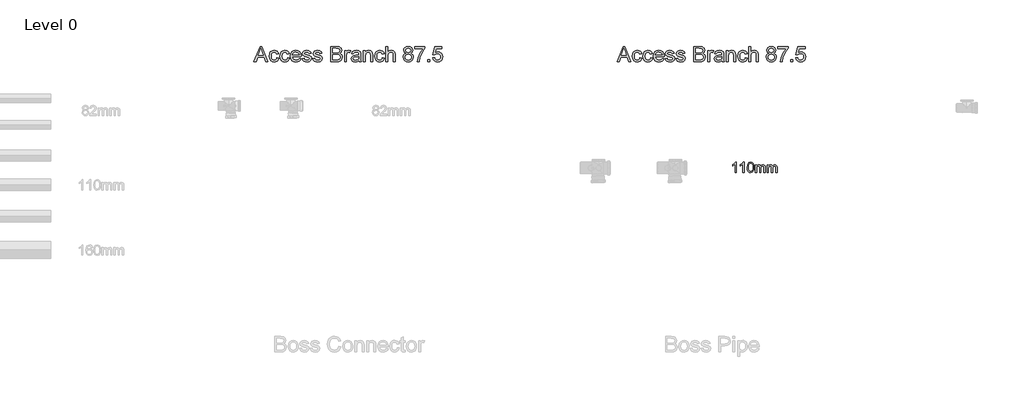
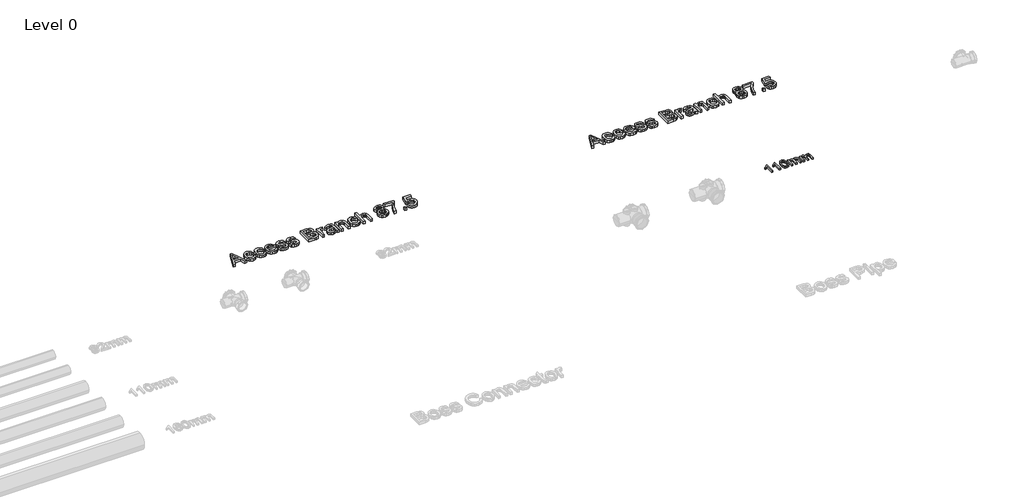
# One storey, part 10 of 23: 3 proxies.
"""IFC4 building model written with IfcOpenShell, lengths in millimetres."""

from ifc_helpers import new_model, si_unit, origin, origin_with_axes, place, context, project, spatial, polyline, outline, extrude, element, save

model = new_model("IFC4")

# Units and contexts
model_context = context("Model", 3, world=origin())
ifc_project = project(units=[si_unit("LENGTHUNIT", "METRE", prefix="MILLI")], contexts=[model_context])

# Site, building, storey
site = spatial("IfcSite", under=ifc_project)
building = spatial("IfcBuilding", under=site)
storey = spatial("IfcBuildingStorey", under=building, Name="Level 0", Elevation=0.0)

# Proxies
placement = place(None, origin())
element("IfcBuildingElementProxy", 1, Name="100mm Arial", ObjectType="100mm Arial", at=placement, inside=storey, context=model_context, shape_type="SweptSolid", body=[
    extrude(outline(polyline([(-17291.7293188, 8237.7167304), (-17304.0370111, 8237.7167304), (-17304.0370111, 8314.4474996), (-17315.6956649, 8306.1422111), (-17328.6523957, 8299.9282688), (-17328.6523957, 8311.5628842), (-17310.6115303, 8323.0773073), (-17299.6620111, 8336.1782688), (-17291.7293188, 8336.1782688), (-17291.7293188, 8237.7167304)])), origin_with_axes(), (0.0, 0.0, 1.0), 15.0),
    extrude(outline(polyline([(-17216.3447034, 8237.7167304), (-17228.6523957, 8237.7167304), (-17228.6523957, 8314.4474996), (-17240.3110495, 8306.1422111), (-17253.2677803, 8299.9282688), (-17253.2677803, 8311.5628842), (-17235.2269149, 8323.0773073), (-17224.2773957, 8336.1782688), (-17216.3447034, 8336.1782688), (-17216.3447034, 8237.7167304)])), origin_with_axes(), (0.0, 0.0, 1.0), 15.0),
    extrude(outline(polyline([(-17187.1139341, 8286.1542304), (-17183.4961457, 8314.4835573), (-17172.7509534, 8330.8176919), (-17154.8062418, 8336.1782688), (-17140.4312418, 8333.0051919), (-17130.5033572, 8323.8585573), (-17124.7341264, 8309.2912496), (-17122.4985495, 8286.1542304), (-17126.0802803, 8257.9450958), (-17136.7894149, 8241.5749035), (-17154.8062418, 8236.1782688), (-17167.5947034, 8238.5220188), (-17177.3062418, 8245.5532688), (-17184.6620111, 8262.2059131), (-17187.1139341, 8286.1542304)]), holes=[polyline([(-17174.8062418, 8286.1782688), (-17173.3639341, 8266.8182929), (-17169.0370111, 8255.613365), (-17162.5947034, 8250.2678121), (-17154.8062418, 8248.4859611), (-17147.0177803, 8250.2738217), (-17140.5754726, 8255.6374035), (-17136.2485495, 8266.848341), (-17134.8062418, 8286.1782688), (-17136.2004726, 8305.1025477), (-17140.3831649, 8316.394615), (-17146.8134534, 8322.0015861), (-17154.9504726, 8323.8705765), (-17162.6547995, 8322.2239419), (-17168.8447034, 8317.2840381), (-17173.3158572, 8305.2888458), (-17174.8062418, 8286.1782688)])]), origin_with_axes(), (0.0, 0.0, 1.0), 15.0),
    extrude(outline(polyline([(-17108.6523957, 8237.7167304), (-17108.6523957, 8310.0244227), (-17096.3447034, 8310.0244227), (-17096.3447034, 8298.1253842), (-17087.8831649, 8307.8729804), (-17075.8398957, 8311.5628842), (-17063.5081649, 8307.800865), (-17056.7293188, 8297.2599996), (-17047.1259534, 8307.9871631), (-17034.9985495, 8311.5628842), (-17025.7467466, 8310.0755044), (-17018.9047995, 8305.613365), (-17014.6770351, 8298.0562736), (-17013.2677803, 8287.2840381), (-17013.2677803, 8237.7167304), (-17025.5754726, 8237.7167304), (-17025.5754726, 8281.9955765), (-17026.7172995, 8292.2720188), (-17030.8519149, 8297.332115), (-17037.8831649, 8299.2551919), (-17049.9865303, 8294.3273073), (-17054.8062418, 8278.5340381), (-17054.8062418, 8237.7167304), (-17067.1139341, 8237.7167304), (-17067.1139341, 8283.3657688), (-17069.9624918, 8295.2888458), (-17079.3014341, 8299.2551919), (-17088.4120111, 8296.6109611), (-17094.4697034, 8288.8705765), (-17096.3447034, 8274.1830765), (-17096.3447034, 8237.7167304), (-17108.6523957, 8237.7167304)])), origin_with_axes(), (0.0, 0.0, 1.0), 15.0),
    extrude(outline(polyline([(-16994.8062418, 8237.7167304), (-16994.8062418, 8310.0244227), (-16982.4985495, 8310.0244227), (-16982.4985495, 8298.1253842), (-16974.0370111, 8307.8729804), (-16961.9937418, 8311.5628842), (-16949.6620111, 8307.800865), (-16942.8831649, 8297.2599996), (-16933.2797995, 8307.9871631), (-16921.1523957, 8311.5628842), (-16911.9005928, 8310.0755044), (-16905.0586457, 8305.613365), (-16900.8308813, 8298.0562736), (-16899.4216264, 8287.2840381), (-16899.4216264, 8237.7167304), (-16911.7293188, 8237.7167304), (-16911.7293188, 8281.9955765), (-16912.8711457, 8292.2720188), (-16917.0057611, 8297.332115), (-16924.0370111, 8299.2551919), (-16936.1403764, 8294.3273073), (-16940.960088, 8278.5340381), (-16940.960088, 8237.7167304), (-16953.2677803, 8237.7167304), (-16953.2677803, 8283.3657688), (-16956.116338, 8295.2888458), (-16965.4552803, 8299.2551919), (-16974.5658572, 8296.6109611), (-16980.6235495, 8288.8705765), (-16982.4985495, 8274.1830765), (-16982.4985495, 8237.7167304), (-16994.8062418, 8237.7167304)])), origin_with_axes(), (0.0, 0.0, 1.0), 15.0),
])
element("IfcBuildingElementProxy", 2, Name="150mm Arial", ObjectType="150mm Arial", at=placement, inside=storey, context=model_context, shape_type="SweptSolid", body=[
    extrude(outline(polyline([(-21942.804432, 9305.2145219), (-21883.850105, 9452.9068296), (-21868.1289512, 9452.9068296), (-21809.1746243, 9305.2145219), (-21828.6818358, 9305.2145219), (-21845.5928935, 9351.3683681), (-21906.4222204, 9351.3683681), (-21923.2972204, 9305.2145219), (-21942.804432, 9305.2145219)]), holes=[polyline([(-21899.6433743, 9369.8299065), (-21852.335682, 9369.8299065), (-21865.6409704, 9406.1400027), (-21875.9895281, 9434.4452911), (-21885.1842397, 9409.3130796), (-21899.6433743, 9369.8299065)])]), origin_with_axes(), (0.0, 0.0, 1.0), 25.0),
    extrude(outline(polyline([(-21722.5279897, 9344.4452911), (-21704.0664512, 9342.1375988), (-21709.2136868, 9325.7178272), (-21718.8861627, 9313.3094738), (-21732.1734223, 9305.5074907), (-21748.1650089, 9302.9068296), (-21767.8029296, 9306.5351349), (-21783.1589993, 9317.4200508), (-21793.0703574, 9335.0838128), (-21796.3741435, 9359.0486565), (-21790.7311147, 9389.7157238), (-21783.6097204, 9401.2136205), (-21773.5315954, 9409.4212527), (-21761.4748046, 9414.3431277), (-21748.4174127, 9415.9837527), (-21732.8179536, 9413.7301469), (-21720.3464993, 9406.9693296), (-21711.3996844, 9396.0618777), (-21706.3741435, 9381.3683681), (-21724.835682, 9379.0606758), (-21733.3993839, 9392.8888008), (-21748.273182, 9397.5222142), (-21760.2037709, 9395.2415652), (-21769.6734223, 9388.3996181), (-21775.8528094, 9376.6267815), (-21777.912605, 9359.5534642), (-21775.8978815, 9342.2502791), (-21769.8537108, 9330.4368777), (-21760.5553334, 9323.6354955), (-21748.7779897, 9321.3683681), (-21739.218194, 9322.7836325), (-21731.3801531, 9327.0294258), (-21725.6785305, 9334.213921), (-21722.5279897, 9344.4452911)])), origin_with_axes(), (0.0, 0.0, 1.0), 25.0),
    extrude(outline(polyline([(-21618.6818358, 9344.4452911), (-21600.2202973, 9342.1375988), (-21605.3675329, 9325.7178272), (-21615.0400089, 9313.3094738), (-21628.3272685, 9305.5074907), (-21644.318855, 9302.9068296), (-21663.9567757, 9306.5351349), (-21679.3128454, 9317.4200508), (-21689.2242036, 9335.0838128), (-21692.5279897, 9359.0486565), (-21686.8849608, 9389.7157238), (-21679.7635666, 9401.2136205), (-21669.6854416, 9409.4212527), (-21657.6286507, 9414.3431277), (-21644.5712589, 9415.9837527), (-21628.9717997, 9413.7301469), (-21616.5003454, 9406.9693296), (-21607.5535305, 9396.0618777), (-21602.5279897, 9381.3683681), (-21620.9895281, 9379.0606758), (-21629.55323, 9392.8888008), (-21644.4270281, 9397.5222142), (-21656.3576171, 9395.2415652), (-21665.8272685, 9388.3996181), (-21672.0066555, 9376.6267815), (-21674.0664512, 9359.5534642), (-21672.0517276, 9342.2502791), (-21666.007557, 9330.4368777), (-21656.7091796, 9323.6354955), (-21644.9318358, 9321.3683681), (-21635.3720401, 9322.7836325), (-21627.5339993, 9327.0294258), (-21621.8323767, 9334.213921), (-21618.6818358, 9344.4452911)])), origin_with_axes(), (0.0, 0.0, 1.0), 25.0),
    extrude(outline(polyline([(-21508.1289512, 9337.5222142), (-21490.0279897, 9335.2145219), (-21496.5499247, 9321.5756998), (-21506.9570762, 9311.3803873), (-21521.015069, 9305.025219), (-21538.4895281, 9302.9068296), (-21560.1511868, 9306.5621782), (-21576.818855, 9317.5282238), (-21587.4468598, 9335.0928272), (-21590.9895281, 9358.5438488), (-21587.4108022, 9382.7836325), (-21576.6746243, 9400.9116373), (-21560.2323166, 9412.2157238), (-21539.5352012, 9415.9837527), (-21519.4826171, 9412.2247383), (-21503.45948, 9400.947695), (-21492.9531699, 9382.8557479), (-21489.4510666, 9358.6520219), (-21489.5592397, 9353.6760604), (-21572.5279897, 9353.6760604), (-21569.3323767, 9339.8569498), (-21561.9089993, 9329.697695), (-21551.1953574, 9323.4506998), (-21538.1289512, 9321.3683681), (-21520.0279897, 9325.2265411), (-21508.1289512, 9337.5222142)]), holes=[polyline([(-21572.5279897, 9372.1375988), (-21507.912605, 9372.1375988), (-21510.4096002, 9381.8912046), (-21515.304432, 9388.8683681), (-21526.0676531, 9395.3587527), (-21539.6073166, 9397.5222142), (-21552.0517276, 9395.7959522), (-21562.3416916, 9390.6171661), (-21569.4946363, 9382.5447503), (-21572.5279897, 9372.1375988)])]), origin_with_axes(), (0.0, 0.0, 1.0), 25.0),
    extrude(outline(polyline([(-21477.912605, 9337.5222142), (-21459.4510666, 9339.8299065), (-21456.5394079, 9331.9332719), (-21450.9053935, 9326.1279835), (-21431.3260666, 9321.3683681), (-21412.5039512, 9325.7313488), (-21406.3741435, 9335.9717335), (-21412.5400089, 9344.2650027), (-21431.5424127, 9349.5294258), (-21459.3428935, 9358.5618777), (-21471.476307, 9369.1087527), (-21475.6049127, 9384.0005796), (-21472.287605, 9397.7565892), (-21463.2371243, 9408.2674065), (-21451.5003454, 9413.7301469), (-21435.616932, 9415.9837527), (-21413.1529897, 9412.3599546), (-21398.8741435, 9402.5522623), (-21392.5279897, 9385.9837527), (-21410.9895281, 9383.6760604), (-21417.9306339, 9393.8623585), (-21434.1746243, 9397.5222142), (-21451.8428935, 9394.0246181), (-21457.1433743, 9385.8755796), (-21454.943855, 9380.5029835), (-21448.0568358, 9376.4284642), (-21432.1553935, 9372.4981758), (-21405.0580377, 9363.8082719), (-21392.4739031, 9353.9645219), (-21387.912605, 9337.9188488), (-21393.2671723, 9320.2505796), (-21408.7178935, 9307.43207), (-21431.5784704, 9302.9068296), (-21450.1932541, 9305.08832), (-21463.7779897, 9311.6327911), (-21472.8464993, 9322.4681277), (-21477.912605, 9337.5222142)])), origin_with_axes(), (0.0, 0.0, 1.0), 25.0),
    extrude(outline(polyline([(-21374.0664512, 9337.5222142), (-21355.6049127, 9339.8299065), (-21352.6932541, 9331.9332719), (-21347.0592397, 9326.1279835), (-21327.4799127, 9321.3683681), (-21308.6577973, 9325.7313488), (-21302.5279897, 9335.9717335), (-21308.693855, 9344.2650027), (-21327.6962589, 9349.5294258), (-21355.4967397, 9358.5618777), (-21367.6301531, 9369.1087527), (-21371.7587589, 9384.0005796), (-21368.4414512, 9397.7565892), (-21359.3909704, 9408.2674065), (-21347.6541916, 9413.7301469), (-21331.7707781, 9415.9837527), (-21309.3068358, 9412.3599546), (-21295.0279897, 9402.5522623), (-21288.6818358, 9385.9837527), (-21307.1433743, 9383.6760604), (-21314.08448, 9393.8623585), (-21330.3284704, 9397.5222142), (-21347.9967397, 9394.0246181), (-21353.2972204, 9385.8755796), (-21351.0977012, 9380.5029835), (-21344.210682, 9376.4284642), (-21328.3092397, 9372.4981758), (-21301.2118839, 9363.8082719), (-21288.6277493, 9353.9645219), (-21284.0664512, 9337.9188488), (-21289.4210185, 9320.2505796), (-21304.8717397, 9307.43207), (-21327.7323166, 9302.9068296), (-21346.3471002, 9305.08832), (-21359.9318358, 9311.6327911), (-21369.0003454, 9322.4681277), (-21374.0664512, 9337.5222142)])), origin_with_axes(), (0.0, 0.0, 1.0), 25.0),
    extrude(outline(polyline([(-21203.2972204, 9305.2145219), (-21203.2972204, 9452.9068296), (-21146.9390473, 9452.9068296), (-21119.3368839, 9448.5618777), (-21110.0610425, 9443.049558), (-21103.038807, 9435.2025027), (-21097.1433743, 9416.3082719), (-21102.101307, 9399.0546661), (-21117.0832781, 9385.9837527), (-21106.6220401, 9380.5210123), (-21098.8921723, 9372.2097142), (-21094.1190353, 9361.5997383), (-21092.5279897, 9349.2409642), (-21096.8729416, 9329.3912046), (-21107.6361627, 9315.2565892), (-21123.6998647, 9307.7565892), (-21147.3717397, 9305.2145219), (-21203.2972204, 9305.2145219)]), holes=[polyline([(-21184.835682, 9323.6760604), (-21146.975105, 9323.6760604), (-21133.273182, 9324.3972142), (-21121.6806339, 9328.4176469), (-21114.0003454, 9336.6207719), (-21110.9895281, 9349.0606758), (-21114.523182, 9363.4116373), (-21125.9714993, 9371.9753392), (-21148.7779897, 9374.4452911), (-21184.835682, 9374.4452911), (-21184.835682, 9323.6760604)]), polyline([(-21184.835682, 9392.9068296), (-21151.1217397, 9392.9068296), (-21131.4342397, 9394.4933681), (-21119.5892877, 9401.3263008), (-21115.6049127, 9413.3515411), (-21119.318855, 9425.3948104), (-21129.9558743, 9432.5162046), (-21153.6818358, 9434.4452911), (-21184.835682, 9434.4452911), (-21184.835682, 9392.9068296)])]), origin_with_axes(), (0.0, 0.0, 1.0), 25.0),
    extrude(outline(polyline([(-21069.4510666, 9305.2145219), (-21069.4510666, 9413.6760604), (-21053.2972204, 9413.6760604), (-21053.2972204, 9397.6303873), (-21041.8308743, 9412.4140411), (-21030.2924127, 9415.9837527), (-21011.7587589, 9410.2866373), (-21017.9246243, 9393.7361565), (-21030.9053935, 9397.5222142), (-21041.3440954, 9393.8803873), (-21047.9967397, 9383.7842335), (-21050.9895281, 9362.2217335), (-21050.9895281, 9305.2145219), (-21069.4510666, 9305.2145219)])), origin_with_axes(), (0.0, 0.0, 1.0), 25.0),
    extrude(outline(polyline([(-20930.9895281, 9319.0606758), (-20948.8921723, 9306.5486565), (-20968.6698166, 9302.9068296), (-20984.0980017, 9305.0973344), (-20995.4787108, 9311.6688488), (-21002.4964392, 9321.6478152), (-21004.835682, 9334.0606758), (-21001.3020281, 9348.6640411), (-20992.0171723, 9359.2650027), (-20979.0904897, 9365.322695), (-20963.116932, 9368.0991373), (-20931.0977012, 9374.4452911), (-20930.9895281, 9378.5558681), (-20932.2605618, 9386.7950508), (-20936.0736627, 9392.1856758), (-20944.601307, 9396.1880796), (-20956.4823166, 9397.5222142), (-20975.1602012, 9393.9705315), (-20984.0664512, 9381.3683681), (-21002.5279897, 9383.6760604), (-20994.5412108, 9401.7049065), (-20978.45948, 9412.2698104), (-20954.1025089, 9415.9837527), (-20931.7287108, 9412.7025027), (-20919.0904897, 9404.46332), (-20913.429432, 9391.9332719), (-20912.5279897, 9375.7794258), (-20912.5279897, 9352.8106758), (-20911.5904897, 9320.7373585), (-20907.912605, 9305.2145219), (-20926.3741435, 9305.2145219), (-20930.9895281, 9319.0606758)]), holes=[polyline([(-20930.9895281, 9355.9837527), (-20960.773182, 9350.322695), (-20976.6565954, 9347.3299065), (-20983.850105, 9342.4621181), (-20986.3741435, 9335.3587527), (-20980.8753454, 9325.3707719), (-20964.7395281, 9321.3683681), (-20946.0616435, 9325.7854354), (-20934.0183743, 9336.4765411), (-20931.0977012, 9350.7553873), (-20930.9895281, 9355.9837527)])]), origin_with_axes(), (0.0, 0.0, 1.0), 25.0),
    extrude(outline(polyline([(-20887.1433743, 9305.2145219), (-20887.1433743, 9413.6760604), (-20868.6818358, 9413.6760604), (-20868.6818358, 9398.5318296), (-20854.5652493, 9411.6207719), (-20835.2924127, 9415.9837527), (-20817.8585185, 9412.4681277), (-20805.95948, 9403.2373585), (-20800.4246243, 9389.6616373), (-20799.4510666, 9371.8130796), (-20799.4510666, 9305.2145219), (-20817.912605, 9305.2145219), (-20817.912605, 9369.3250988), (-20820.0400089, 9385.6592335), (-20827.5580377, 9394.2950508), (-20840.2323166, 9397.5222142), (-20851.0451171, 9395.7103152), (-20860.2623647, 9390.2746181), (-20866.576968, 9379.7728152), (-20868.6818358, 9362.7625988), (-20868.6818358, 9305.2145219), (-20887.1433743, 9305.2145219)])), origin_with_axes(), (0.0, 0.0, 1.0), 25.0),
    extrude(outline(polyline([(-20704.835682, 9344.4452911), (-20686.3741435, 9342.1375988), (-20691.5213791, 9325.7178272), (-20701.193855, 9313.3094738), (-20714.4811147, 9305.5074907), (-20730.4727012, 9302.9068296), (-20750.1106219, 9306.5351349), (-20765.4666916, 9317.4200508), (-20775.3780497, 9335.0838128), (-20778.6818358, 9359.0486565), (-20773.038807, 9389.7157238), (-20765.9174127, 9401.2136205), (-20755.8392877, 9409.4212527), (-20743.7824969, 9414.3431277), (-20730.725105, 9415.9837527), (-20715.1256459, 9413.7301469), (-20702.6541916, 9406.9693296), (-20693.7073767, 9396.0618777), (-20688.6818358, 9381.3683681), (-20707.1433743, 9379.0606758), (-20715.7070762, 9392.8888008), (-20730.5808743, 9397.5222142), (-20742.5114632, 9395.2415652), (-20751.9811147, 9388.3996181), (-20758.1605017, 9376.6267815), (-20760.2202973, 9359.5534642), (-20758.2055738, 9342.2502791), (-20752.1614031, 9330.4368777), (-20742.8630257, 9323.6354955), (-20731.085682, 9321.3683681), (-20721.5258863, 9322.7836325), (-20713.6878454, 9327.0294258), (-20707.9862228, 9334.213921), (-20704.835682, 9344.4452911)])), origin_with_axes(), (0.0, 0.0, 1.0), 25.0),
    extrude(outline(polyline([(-20670.2202973, 9305.2145219), (-20670.2202973, 9452.9068296), (-20651.7587589, 9452.9068296), (-20651.7587589, 9398.603945), (-20637.3627252, 9411.6388008), (-20619.631355, 9415.9837527), (-20598.898182, 9411.2421661), (-20586.3140473, 9398.135195), (-20582.5279897, 9373.8683681), (-20582.5279897, 9305.2145219), (-20600.9895281, 9305.2145219), (-20600.9895281, 9371.9573104), (-20602.4588791, 9383.5138008), (-20606.866932, 9391.4284642), (-20613.9702973, 9395.9987767), (-20623.5255858, 9397.5222142), (-20638.6517877, 9393.4116373), (-20648.7479416, 9382.2698104), (-20651.7587589, 9362.8347142), (-20651.7587589, 9305.2145219), (-20670.2202973, 9305.2145219)])), origin_with_axes(), (0.0, 0.0, 1.0), 25.0),
    extrude(outline(polyline([(-20477.1674127, 9386.5606758), (-20493.9883262, 9398.0270219), (-20499.4510666, 9415.8755796), (-20496.476307, 9430.307671), (-20487.5520281, 9442.2337527), (-20473.678831, 9450.2385604), (-20455.8573166, 9452.9068296), (-20437.9276291, 9450.1754594), (-20423.8741435, 9441.9813488), (-20414.787605, 9429.8659642), (-20411.7587589, 9415.3707719), (-20417.1493839, 9397.9729354), (-20433.5015473, 9386.5606758), (-20422.1388671, 9380.705808), (-20413.8681339, 9372.0835123), (-20408.8245642, 9361.1084522), (-20407.1433743, 9348.1952911), (-20410.4787108, 9330.5450508), (-20420.4847204, 9315.9597142), (-20435.9354416, 9306.1700508), (-20455.6049127, 9302.9068296), (-20475.2743839, 9306.1835724), (-20490.725105, 9316.0138008), (-20500.7311147, 9330.7388609), (-20504.0664512, 9348.7000988), (-20502.3176531, 9362.1135604), (-20497.0712589, 9373.1472142), (-20488.5977012, 9381.4224546), (-20477.1674127, 9386.5606758)]), holes=[polyline([(-20480.9895281, 9415.3347142), (-20479.3534103, 9407.27582), (-20474.445057, 9400.8395219), (-20466.4086988, 9396.6207719), (-20455.3885666, 9395.2145219), (-20444.6253454, 9396.6117575), (-20436.710682, 9400.8034642), (-20431.8428935, 9407.0234161), (-20430.2202973, 9414.5053873), (-20431.89698, 9422.2713128), (-20436.9270281, 9428.6940892), (-20444.9498647, 9433.0074907), (-20455.6049127, 9434.4452911), (-20466.327569, 9433.0390411), (-20474.3368839, 9428.8202911), (-20479.3263671, 9422.6363969), (-20480.9895281, 9415.3347142)]), polyline([(-20485.6049127, 9349.3491373), (-20482.52198, 9335.4488969), (-20471.6145281, 9325.0462527), (-20455.460682, 9321.3683681), (-20442.8945762, 9323.3019618), (-20433.4654897, 9329.1027431), (-20427.570057, 9337.8872984), (-20425.6049127, 9348.7722142), (-20427.6331579, 9359.8419258), (-20433.7178935, 9368.8202911), (-20443.3633262, 9374.7698104), (-20456.0736627, 9376.7529835), (-20468.4639872, 9374.7968536), (-20477.7984223, 9368.9284642), (-20483.6532901, 9360.1213729), (-20485.6049127, 9349.3491373)])]), origin_with_axes(), (0.0, 0.0, 1.0), 25.0),
    extrude(outline(polyline([(-20390.9895281, 9432.1375988), (-20390.9895281, 9450.5991373), (-20294.0664512, 9450.5991373), (-20294.0664512, 9435.6712527), (-20321.5604416, 9395.9537046), (-20342.600105, 9345.3467335), (-20349.4510666, 9305.2145219), (-20367.912605, 9305.2145219), (-20360.5748647, 9346.8611565), (-20340.4366435, 9393.9344738), (-20312.5279897, 9432.1375988), (-20390.9895281, 9432.1375988)])), origin_with_axes(), (0.0, 0.0, 1.0), 25.0),
    extrude(outline(polyline([(-20268.6818358, 9305.2145219), (-20268.6818358, 9323.6760604), (-20250.2202973, 9323.6760604), (-20250.2202973, 9305.2145219), (-20268.6818358, 9305.2145219)])), origin_with_axes(), (0.0, 0.0, 1.0), 25.0),
    extrude(outline(polyline([(-20220.2202973, 9344.4452911), (-20201.7587589, 9346.7529835), (-20198.3693358, 9335.6697503), (-20192.4558743, 9327.7325508), (-20184.0454175, 9322.9594137), (-20173.1650089, 9321.3683681), (-20159.9318358, 9323.5814089), (-20150.0159704, 9330.2205315), (-20143.8230618, 9340.5195099), (-20141.7587589, 9353.7121181), (-20143.6923526, 9366.1339931), (-20149.4931339, 9375.635195), (-20159.2061747, 9381.665844), (-20172.8765473, 9383.6760604), (-20189.08448, 9380.4669258), (-20199.4510666, 9372.1375988), (-20217.912605, 9374.4452911), (-20201.7587589, 9450.5991373), (-20130.2202973, 9450.5991373), (-20130.2202973, 9432.1375988), (-20186.8308743, 9432.1375988), (-20194.7275089, 9391.4645219), (-20181.5394079, 9399.4693296), (-20167.7202973, 9402.1375988), (-20150.4711988, 9398.8293056), (-20136.1517877, 9388.9044258), (-20126.5108622, 9373.7782238), (-20123.2972204, 9354.8659642), (-20126.1908502, 9336.4044258), (-20134.8717397, 9320.6111565), (-20151.4943358, 9307.3329113), (-20173.2371243, 9302.9068296), (-20191.3696363, 9305.7508801), (-20205.8152493, 9314.2830315), (-20215.717593, 9327.5116974), (-20220.2202973, 9344.4452911)])), origin_with_axes(), (0.0, 0.0, 1.0), 25.0),
])
element("IfcBuildingElementProxy", 3, Name="150mm Arial", ObjectType="150mm Arial", at=placement, inside=storey, context=model_context, shape_type="SweptSolid", body=[
    extrude(outline(polyline([(-18442.804432, 9305.2145219), (-18383.850105, 9452.9068296), (-18368.1289512, 9452.9068296), (-18309.1746243, 9305.2145219), (-18328.6818358, 9305.2145219), (-18345.5928935, 9351.3683681), (-18406.4222204, 9351.3683681), (-18423.2972204, 9305.2145219), (-18442.804432, 9305.2145219)]), holes=[polyline([(-18399.6433743, 9369.8299065), (-18352.335682, 9369.8299065), (-18365.6409704, 9406.1400027), (-18375.9895281, 9434.4452911), (-18385.1842397, 9409.3130796), (-18399.6433743, 9369.8299065)])]), origin_with_axes(), (0.0, 0.0, 1.0), 25.0),
    extrude(outline(polyline([(-18222.5279897, 9344.4452911), (-18204.0664512, 9342.1375988), (-18209.2136868, 9325.7178272), (-18218.8861627, 9313.3094738), (-18232.1734223, 9305.5074907), (-18248.1650089, 9302.9068296), (-18267.8029296, 9306.5351349), (-18283.1589993, 9317.4200508), (-18293.0703574, 9335.0838128), (-18296.3741435, 9359.0486565), (-18290.7311147, 9389.7157238), (-18283.6097204, 9401.2136205), (-18273.5315954, 9409.4212527), (-18261.4748046, 9414.3431277), (-18248.4174127, 9415.9837527), (-18232.8179536, 9413.7301469), (-18220.3464993, 9406.9693296), (-18211.3996844, 9396.0618777), (-18206.3741435, 9381.3683681), (-18224.835682, 9379.0606758), (-18233.3993839, 9392.8888008), (-18248.273182, 9397.5222142), (-18260.2037709, 9395.2415652), (-18269.6734223, 9388.3996181), (-18275.8528094, 9376.6267815), (-18277.912605, 9359.5534642), (-18275.8978815, 9342.2502791), (-18269.8537108, 9330.4368777), (-18260.5553334, 9323.6354955), (-18248.7779897, 9321.3683681), (-18239.218194, 9322.7836325), (-18231.3801531, 9327.0294258), (-18225.6785305, 9334.213921), (-18222.5279897, 9344.4452911)])), origin_with_axes(), (0.0, 0.0, 1.0), 25.0),
    extrude(outline(polyline([(-18118.6818358, 9344.4452911), (-18100.2202973, 9342.1375988), (-18105.3675329, 9325.7178272), (-18115.0400089, 9313.3094738), (-18128.3272685, 9305.5074907), (-18144.318855, 9302.9068296), (-18163.9567757, 9306.5351349), (-18179.3128454, 9317.4200508), (-18189.2242036, 9335.0838128), (-18192.5279897, 9359.0486565), (-18186.8849608, 9389.7157238), (-18179.7635666, 9401.2136205), (-18169.6854416, 9409.4212527), (-18157.6286507, 9414.3431277), (-18144.5712589, 9415.9837527), (-18128.9717997, 9413.7301469), (-18116.5003454, 9406.9693296), (-18107.5535305, 9396.0618777), (-18102.5279897, 9381.3683681), (-18120.9895281, 9379.0606758), (-18129.55323, 9392.8888008), (-18144.4270281, 9397.5222142), (-18156.3576171, 9395.2415652), (-18165.8272685, 9388.3996181), (-18172.0066555, 9376.6267815), (-18174.0664512, 9359.5534642), (-18172.0517276, 9342.2502791), (-18166.007557, 9330.4368777), (-18156.7091796, 9323.6354955), (-18144.9318358, 9321.3683681), (-18135.3720401, 9322.7836325), (-18127.5339993, 9327.0294258), (-18121.8323767, 9334.213921), (-18118.6818358, 9344.4452911)])), origin_with_axes(), (0.0, 0.0, 1.0), 25.0),
    extrude(outline(polyline([(-18008.1289512, 9337.5222142), (-17990.0279897, 9335.2145219), (-17996.5499247, 9321.5756998), (-18006.9570762, 9311.3803873), (-18021.015069, 9305.025219), (-18038.4895281, 9302.9068296), (-18060.1511868, 9306.5621782), (-18076.818855, 9317.5282238), (-18087.4468598, 9335.0928272), (-18090.9895281, 9358.5438488), (-18087.4108022, 9382.7836325), (-18076.6746243, 9400.9116373), (-18060.2323166, 9412.2157238), (-18039.5352012, 9415.9837527), (-18019.4826171, 9412.2247383), (-18003.45948, 9400.947695), (-17992.9531699, 9382.8557479), (-17989.4510666, 9358.6520219), (-17989.5592397, 9353.6760604), (-18072.5279897, 9353.6760604), (-18069.3323767, 9339.8569498), (-18061.9089993, 9329.697695), (-18051.1953574, 9323.4506998), (-18038.1289512, 9321.3683681), (-18020.0279897, 9325.2265411), (-18008.1289512, 9337.5222142)]), holes=[polyline([(-18072.5279897, 9372.1375988), (-18007.912605, 9372.1375988), (-18010.4096002, 9381.8912046), (-18015.304432, 9388.8683681), (-18026.0676531, 9395.3587527), (-18039.6073166, 9397.5222142), (-18052.0517276, 9395.7959522), (-18062.3416916, 9390.6171661), (-18069.4946363, 9382.5447503), (-18072.5279897, 9372.1375988)])]), origin_with_axes(), (0.0, 0.0, 1.0), 25.0),
    extrude(outline(polyline([(-17977.912605, 9337.5222142), (-17959.4510666, 9339.8299065), (-17956.5394079, 9331.9332719), (-17950.9053935, 9326.1279835), (-17931.3260666, 9321.3683681), (-17912.5039512, 9325.7313488), (-17906.3741435, 9335.9717335), (-17912.5400089, 9344.2650027), (-17931.5424127, 9349.5294258), (-17959.3428935, 9358.5618777), (-17971.476307, 9369.1087527), (-17975.6049127, 9384.0005796), (-17972.287605, 9397.7565892), (-17963.2371243, 9408.2674065), (-17951.5003454, 9413.7301469), (-17935.616932, 9415.9837527), (-17913.1529897, 9412.3599546), (-17898.8741435, 9402.5522623), (-17892.5279897, 9385.9837527), (-17910.9895281, 9383.6760604), (-17917.9306339, 9393.8623585), (-17934.1746243, 9397.5222142), (-17951.8428935, 9394.0246181), (-17957.1433743, 9385.8755796), (-17954.943855, 9380.5029835), (-17948.0568358, 9376.4284642), (-17932.1553935, 9372.4981758), (-17905.0580377, 9363.8082719), (-17892.4739031, 9353.9645219), (-17887.912605, 9337.9188488), (-17893.2671723, 9320.2505796), (-17908.7178935, 9307.43207), (-17931.5784704, 9302.9068296), (-17950.1932541, 9305.08832), (-17963.7779897, 9311.6327911), (-17972.8464993, 9322.4681277), (-17977.912605, 9337.5222142)])), origin_with_axes(), (0.0, 0.0, 1.0), 25.0),
    extrude(outline(polyline([(-17874.0664512, 9337.5222142), (-17855.6049127, 9339.8299065), (-17852.6932541, 9331.9332719), (-17847.0592397, 9326.1279835), (-17827.4799127, 9321.3683681), (-17808.6577973, 9325.7313488), (-17802.5279897, 9335.9717335), (-17808.693855, 9344.2650027), (-17827.6962589, 9349.5294258), (-17855.4967397, 9358.5618777), (-17867.6301531, 9369.1087527), (-17871.7587589, 9384.0005796), (-17868.4414512, 9397.7565892), (-17859.3909704, 9408.2674065), (-17847.6541916, 9413.7301469), (-17831.7707781, 9415.9837527), (-17809.3068358, 9412.3599546), (-17795.0279897, 9402.5522623), (-17788.6818358, 9385.9837527), (-17807.1433743, 9383.6760604), (-17814.08448, 9393.8623585), (-17830.3284704, 9397.5222142), (-17847.9967397, 9394.0246181), (-17853.2972204, 9385.8755796), (-17851.0977012, 9380.5029835), (-17844.210682, 9376.4284642), (-17828.3092397, 9372.4981758), (-17801.2118839, 9363.8082719), (-17788.6277493, 9353.9645219), (-17784.0664512, 9337.9188488), (-17789.4210185, 9320.2505796), (-17804.8717397, 9307.43207), (-17827.7323166, 9302.9068296), (-17846.3471002, 9305.08832), (-17859.9318358, 9311.6327911), (-17869.0003454, 9322.4681277), (-17874.0664512, 9337.5222142)])), origin_with_axes(), (0.0, 0.0, 1.0), 25.0),
    extrude(outline(polyline([(-17703.2972204, 9305.2145219), (-17703.2972204, 9452.9068296), (-17646.9390473, 9452.9068296), (-17619.3368839, 9448.5618777), (-17610.0610425, 9443.049558), (-17603.038807, 9435.2025027), (-17597.1433743, 9416.3082719), (-17602.101307, 9399.0546661), (-17617.0832781, 9385.9837527), (-17606.6220401, 9380.5210123), (-17598.8921723, 9372.2097142), (-17594.1190353, 9361.5997383), (-17592.5279897, 9349.2409642), (-17596.8729416, 9329.3912046), (-17607.6361627, 9315.2565892), (-17623.6998647, 9307.7565892), (-17647.3717397, 9305.2145219), (-17703.2972204, 9305.2145219)]), holes=[polyline([(-17684.835682, 9323.6760604), (-17646.975105, 9323.6760604), (-17633.273182, 9324.3972142), (-17621.6806339, 9328.4176469), (-17614.0003454, 9336.6207719), (-17610.9895281, 9349.0606758), (-17614.523182, 9363.4116373), (-17625.9714993, 9371.9753392), (-17648.7779897, 9374.4452911), (-17684.835682, 9374.4452911), (-17684.835682, 9323.6760604)]), polyline([(-17684.835682, 9392.9068296), (-17651.1217397, 9392.9068296), (-17631.4342397, 9394.4933681), (-17619.5892877, 9401.3263008), (-17615.6049127, 9413.3515411), (-17619.318855, 9425.3948104), (-17629.9558743, 9432.5162046), (-17653.6818358, 9434.4452911), (-17684.835682, 9434.4452911), (-17684.835682, 9392.9068296)])]), origin_with_axes(), (0.0, 0.0, 1.0), 25.0),
    extrude(outline(polyline([(-17569.4510666, 9305.2145219), (-17569.4510666, 9413.6760604), (-17553.2972204, 9413.6760604), (-17553.2972204, 9397.6303873), (-17541.8308743, 9412.4140411), (-17530.2924127, 9415.9837527), (-17511.7587589, 9410.2866373), (-17517.9246243, 9393.7361565), (-17530.9053935, 9397.5222142), (-17541.3440954, 9393.8803873), (-17547.9967397, 9383.7842335), (-17550.9895281, 9362.2217335), (-17550.9895281, 9305.2145219), (-17569.4510666, 9305.2145219)])), origin_with_axes(), (0.0, 0.0, 1.0), 25.0),
    extrude(outline(polyline([(-17430.9895281, 9319.0606758), (-17448.8921723, 9306.5486565), (-17468.6698166, 9302.9068296), (-17484.0980017, 9305.0973344), (-17495.4787108, 9311.6688488), (-17502.4964392, 9321.6478152), (-17504.835682, 9334.0606758), (-17501.3020281, 9348.6640411), (-17492.0171723, 9359.2650027), (-17479.0904897, 9365.322695), (-17463.116932, 9368.0991373), (-17431.0977012, 9374.4452911), (-17430.9895281, 9378.5558681), (-17432.2605618, 9386.7950508), (-17436.0736627, 9392.1856758), (-17444.601307, 9396.1880796), (-17456.4823166, 9397.5222142), (-17475.1602012, 9393.9705315), (-17484.0664512, 9381.3683681), (-17502.5279897, 9383.6760604), (-17494.5412108, 9401.7049065), (-17478.45948, 9412.2698104), (-17454.1025089, 9415.9837527), (-17431.7287108, 9412.7025027), (-17419.0904897, 9404.46332), (-17413.429432, 9391.9332719), (-17412.5279897, 9375.7794258), (-17412.5279897, 9352.8106758), (-17411.5904897, 9320.7373585), (-17407.912605, 9305.2145219), (-17426.3741435, 9305.2145219), (-17430.9895281, 9319.0606758)]), holes=[polyline([(-17430.9895281, 9355.9837527), (-17460.773182, 9350.322695), (-17476.6565954, 9347.3299065), (-17483.850105, 9342.4621181), (-17486.3741435, 9335.3587527), (-17480.8753454, 9325.3707719), (-17464.7395281, 9321.3683681), (-17446.0616435, 9325.7854354), (-17434.0183743, 9336.4765411), (-17431.0977012, 9350.7553873), (-17430.9895281, 9355.9837527)])]), origin_with_axes(), (0.0, 0.0, 1.0), 25.0),
    extrude(outline(polyline([(-17387.1433743, 9305.2145219), (-17387.1433743, 9413.6760604), (-17368.6818358, 9413.6760604), (-17368.6818358, 9398.5318296), (-17354.5652493, 9411.6207719), (-17335.2924127, 9415.9837527), (-17317.8585185, 9412.4681277), (-17305.95948, 9403.2373585), (-17300.4246243, 9389.6616373), (-17299.4510666, 9371.8130796), (-17299.4510666, 9305.2145219), (-17317.912605, 9305.2145219), (-17317.912605, 9369.3250988), (-17320.0400089, 9385.6592335), (-17327.5580377, 9394.2950508), (-17340.2323166, 9397.5222142), (-17351.0451171, 9395.7103152), (-17360.2623647, 9390.2746181), (-17366.576968, 9379.7728152), (-17368.6818358, 9362.7625988), (-17368.6818358, 9305.2145219), (-17387.1433743, 9305.2145219)])), origin_with_axes(), (0.0, 0.0, 1.0), 25.0),
    extrude(outline(polyline([(-17204.835682, 9344.4452911), (-17186.3741435, 9342.1375988), (-17191.5213791, 9325.7178272), (-17201.193855, 9313.3094738), (-17214.4811147, 9305.5074907), (-17230.4727012, 9302.9068296), (-17250.1106219, 9306.5351349), (-17265.4666916, 9317.4200508), (-17275.3780497, 9335.0838128), (-17278.6818358, 9359.0486565), (-17273.038807, 9389.7157238), (-17265.9174127, 9401.2136205), (-17255.8392877, 9409.4212527), (-17243.7824969, 9414.3431277), (-17230.725105, 9415.9837527), (-17215.1256459, 9413.7301469), (-17202.6541916, 9406.9693296), (-17193.7073767, 9396.0618777), (-17188.6818358, 9381.3683681), (-17207.1433743, 9379.0606758), (-17215.7070762, 9392.8888008), (-17230.5808743, 9397.5222142), (-17242.5114632, 9395.2415652), (-17251.9811147, 9388.3996181), (-17258.1605017, 9376.6267815), (-17260.2202973, 9359.5534642), (-17258.2055738, 9342.2502791), (-17252.1614031, 9330.4368777), (-17242.8630257, 9323.6354955), (-17231.085682, 9321.3683681), (-17221.5258863, 9322.7836325), (-17213.6878454, 9327.0294258), (-17207.9862228, 9334.213921), (-17204.835682, 9344.4452911)])), origin_with_axes(), (0.0, 0.0, 1.0), 25.0),
    extrude(outline(polyline([(-17170.2202973, 9305.2145219), (-17170.2202973, 9452.9068296), (-17151.7587589, 9452.9068296), (-17151.7587589, 9398.603945), (-17137.3627252, 9411.6388008), (-17119.631355, 9415.9837527), (-17098.898182, 9411.2421661), (-17086.3140473, 9398.135195), (-17082.5279897, 9373.8683681), (-17082.5279897, 9305.2145219), (-17100.9895281, 9305.2145219), (-17100.9895281, 9371.9573104), (-17102.4588791, 9383.5138008), (-17106.866932, 9391.4284642), (-17113.9702973, 9395.9987767), (-17123.5255858, 9397.5222142), (-17138.6517877, 9393.4116373), (-17148.7479416, 9382.2698104), (-17151.7587589, 9362.8347142), (-17151.7587589, 9305.2145219), (-17170.2202973, 9305.2145219)])), origin_with_axes(), (0.0, 0.0, 1.0), 25.0),
    extrude(outline(polyline([(-16977.1674127, 9386.5606758), (-16993.9883262, 9398.0270219), (-16999.4510666, 9415.8755796), (-16996.476307, 9430.307671), (-16987.5520281, 9442.2337527), (-16973.678831, 9450.2385604), (-16955.8573166, 9452.9068296), (-16937.9276291, 9450.1754594), (-16923.8741435, 9441.9813488), (-16914.787605, 9429.8659642), (-16911.7587589, 9415.3707719), (-16917.1493839, 9397.9729354), (-16933.5015473, 9386.5606758), (-16922.1388671, 9380.705808), (-16913.8681339, 9372.0835123), (-16908.8245642, 9361.1084522), (-16907.1433743, 9348.1952911), (-16910.4787108, 9330.5450508), (-16920.4847204, 9315.9597142), (-16935.9354416, 9306.1700508), (-16955.6049127, 9302.9068296), (-16975.2743839, 9306.1835724), (-16990.725105, 9316.0138008), (-17000.7311147, 9330.7388609), (-17004.0664512, 9348.7000988), (-17002.3176531, 9362.1135604), (-16997.0712589, 9373.1472142), (-16988.5977012, 9381.4224546), (-16977.1674127, 9386.5606758)]), holes=[polyline([(-16980.9895281, 9415.3347142), (-16979.3534103, 9407.27582), (-16974.445057, 9400.8395219), (-16966.4086988, 9396.6207719), (-16955.3885666, 9395.2145219), (-16944.6253454, 9396.6117575), (-16936.710682, 9400.8034642), (-16931.8428935, 9407.0234161), (-16930.2202973, 9414.5053873), (-16931.89698, 9422.2713128), (-16936.9270281, 9428.6940892), (-16944.9498647, 9433.0074907), (-16955.6049127, 9434.4452911), (-16966.327569, 9433.0390411), (-16974.3368839, 9428.8202911), (-16979.3263671, 9422.6363969), (-16980.9895281, 9415.3347142)]), polyline([(-16985.6049127, 9349.3491373), (-16982.52198, 9335.4488969), (-16971.6145281, 9325.0462527), (-16955.460682, 9321.3683681), (-16942.8945762, 9323.3019618), (-16933.4654897, 9329.1027431), (-16927.570057, 9337.8872984), (-16925.6049127, 9348.7722142), (-16927.6331579, 9359.8419258), (-16933.7178935, 9368.8202911), (-16943.3633262, 9374.7698104), (-16956.0736627, 9376.7529835), (-16968.4639872, 9374.7968536), (-16977.7984223, 9368.9284642), (-16983.6532901, 9360.1213729), (-16985.6049127, 9349.3491373)])]), origin_with_axes(), (0.0, 0.0, 1.0), 25.0),
    extrude(outline(polyline([(-16890.9895281, 9432.1375988), (-16890.9895281, 9450.5991373), (-16794.0664512, 9450.5991373), (-16794.0664512, 9435.6712527), (-16821.5604416, 9395.9537046), (-16842.600105, 9345.3467335), (-16849.4510666, 9305.2145219), (-16867.912605, 9305.2145219), (-16860.5748647, 9346.8611565), (-16840.4366435, 9393.9344738), (-16812.5279897, 9432.1375988), (-16890.9895281, 9432.1375988)])), origin_with_axes(), (0.0, 0.0, 1.0), 25.0),
    extrude(outline(polyline([(-16768.6818358, 9305.2145219), (-16768.6818358, 9323.6760604), (-16750.2202973, 9323.6760604), (-16750.2202973, 9305.2145219), (-16768.6818358, 9305.2145219)])), origin_with_axes(), (0.0, 0.0, 1.0), 25.0),
    extrude(outline(polyline([(-16720.2202973, 9344.4452911), (-16701.7587589, 9346.7529835), (-16698.3693358, 9335.6697503), (-16692.4558743, 9327.7325508), (-16684.0454175, 9322.9594137), (-16673.1650089, 9321.3683681), (-16659.9318358, 9323.5814089), (-16650.0159704, 9330.2205315), (-16643.8230618, 9340.5195099), (-16641.7587589, 9353.7121181), (-16643.6923526, 9366.1339931), (-16649.4931339, 9375.635195), (-16659.2061747, 9381.665844), (-16672.8765473, 9383.6760604), (-16689.08448, 9380.4669258), (-16699.4510666, 9372.1375988), (-16717.912605, 9374.4452911), (-16701.7587589, 9450.5991373), (-16630.2202973, 9450.5991373), (-16630.2202973, 9432.1375988), (-16686.8308743, 9432.1375988), (-16694.7275089, 9391.4645219), (-16681.5394079, 9399.4693296), (-16667.7202973, 9402.1375988), (-16650.4711988, 9398.8293056), (-16636.1517877, 9388.9044258), (-16626.5108622, 9373.7782238), (-16623.2972204, 9354.8659642), (-16626.1908502, 9336.4044258), (-16634.8717397, 9320.6111565), (-16651.4943358, 9307.3329113), (-16673.2371243, 9302.9068296), (-16691.3696363, 9305.7508801), (-16705.8152493, 9314.2830315), (-16715.717593, 9327.5116974), (-16720.2202973, 9344.4452911)])), origin_with_axes(), (0.0, 0.0, 1.0), 25.0),
])

save(model, "model.ifc")
